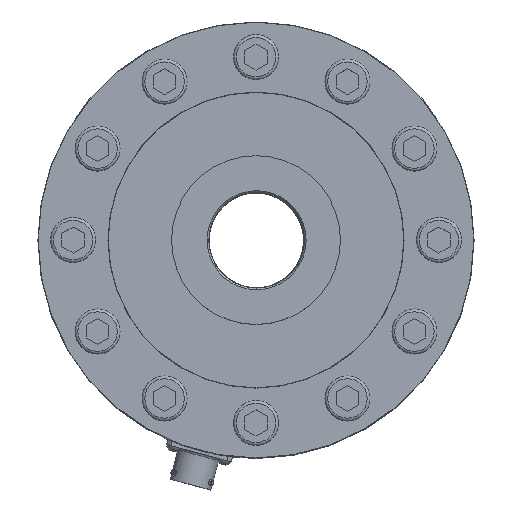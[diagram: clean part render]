
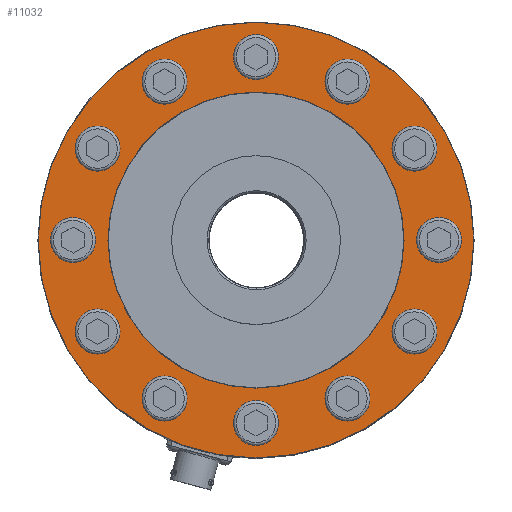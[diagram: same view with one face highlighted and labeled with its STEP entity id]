
A CAD part, top view. The second image highlights one B-rep face of the part: STEP entity #11032.
In plain terms, the highlighted planar face has unit normal (0, 0, 1).
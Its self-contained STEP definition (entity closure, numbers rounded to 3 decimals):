
#338=FACE_BOUND('',#1839,.T.);
#339=FACE_BOUND('',#1840,.T.);
#340=FACE_BOUND('',#1841,.T.);
#341=FACE_BOUND('',#1842,.T.);
#342=FACE_BOUND('',#1843,.T.);
#343=FACE_BOUND('',#1844,.T.);
#344=FACE_BOUND('',#1845,.T.);
#345=FACE_BOUND('',#1846,.T.);
#346=FACE_BOUND('',#1847,.T.);
#347=FACE_BOUND('',#1848,.T.);
#348=FACE_BOUND('',#1849,.T.);
#349=FACE_BOUND('',#1850,.T.);
#350=FACE_BOUND('',#1851,.T.);
#484=PLANE('',#11778);
#1197=FACE_OUTER_BOUND('',#1838,.T.);
#1838=EDGE_LOOP('',(#7764));
#1839=EDGE_LOOP('',(#7765));
#1840=EDGE_LOOP('',(#7766));
#1841=EDGE_LOOP('',(#7767));
#1842=EDGE_LOOP('',(#7768));
#1843=EDGE_LOOP('',(#7769));
#1844=EDGE_LOOP('',(#7770));
#1845=EDGE_LOOP('',(#7771));
#1846=EDGE_LOOP('',(#7772));
#1847=EDGE_LOOP('',(#7773));
#1848=EDGE_LOOP('',(#7774));
#1849=EDGE_LOOP('',(#7775));
#1850=EDGE_LOOP('',(#7776));
#1851=EDGE_LOOP('',(#7777));
#2984=CIRCLE('',#11777,52.6);
#2985=CIRCLE('',#11779,77.4);
#2986=CIRCLE('',#11780,5.5);
#2987=CIRCLE('',#11781,5.5);
#2988=CIRCLE('',#11782,5.5);
#2989=CIRCLE('',#11783,5.5);
#2990=CIRCLE('',#11784,5.5);
#2991=CIRCLE('',#11785,5.5);
#2992=CIRCLE('',#11786,5.5);
#2993=CIRCLE('',#11787,5.5);
#2994=CIRCLE('',#11788,5.5);
#2995=CIRCLE('',#11789,5.5);
#2996=CIRCLE('',#11790,5.5);
#2997=CIRCLE('',#11791,5.5);
#5032=VERTEX_POINT('',#18302);
#5033=VERTEX_POINT('',#18306);
#5034=VERTEX_POINT('',#18308);
#5035=VERTEX_POINT('',#18310);
#5036=VERTEX_POINT('',#18312);
#5037=VERTEX_POINT('',#18314);
#5038=VERTEX_POINT('',#18316);
#5039=VERTEX_POINT('',#18318);
#5040=VERTEX_POINT('',#18320);
#5041=VERTEX_POINT('',#18322);
#5042=VERTEX_POINT('',#18324);
#5043=VERTEX_POINT('',#18326);
#5044=VERTEX_POINT('',#18328);
#5045=VERTEX_POINT('',#18330);
#6131=EDGE_CURVE('',#5032,#5032,#2984,.T.);
#6132=EDGE_CURVE('',#5033,#5033,#2985,.T.);
#6133=EDGE_CURVE('',#5034,#5034,#2986,.T.);
#6134=EDGE_CURVE('',#5035,#5035,#2987,.T.);
#6135=EDGE_CURVE('',#5036,#5036,#2988,.T.);
#6136=EDGE_CURVE('',#5037,#5037,#2989,.T.);
#6137=EDGE_CURVE('',#5038,#5038,#2990,.T.);
#6138=EDGE_CURVE('',#5039,#5039,#2991,.T.);
#6139=EDGE_CURVE('',#5040,#5040,#2992,.T.);
#6140=EDGE_CURVE('',#5041,#5041,#2993,.T.);
#6141=EDGE_CURVE('',#5042,#5042,#2994,.T.);
#6142=EDGE_CURVE('',#5043,#5043,#2995,.T.);
#6143=EDGE_CURVE('',#5044,#5044,#2996,.T.);
#6144=EDGE_CURVE('',#5045,#5045,#2997,.T.);
#7764=ORIENTED_EDGE('',*,*,#6132,.F.);
#7765=ORIENTED_EDGE('',*,*,#6133,.T.);
#7766=ORIENTED_EDGE('',*,*,#6134,.T.);
#7767=ORIENTED_EDGE('',*,*,#6135,.T.);
#7768=ORIENTED_EDGE('',*,*,#6136,.T.);
#7769=ORIENTED_EDGE('',*,*,#6137,.T.);
#7770=ORIENTED_EDGE('',*,*,#6138,.T.);
#7771=ORIENTED_EDGE('',*,*,#6139,.T.);
#7772=ORIENTED_EDGE('',*,*,#6140,.T.);
#7773=ORIENTED_EDGE('',*,*,#6141,.T.);
#7774=ORIENTED_EDGE('',*,*,#6142,.T.);
#7775=ORIENTED_EDGE('',*,*,#6143,.T.);
#7776=ORIENTED_EDGE('',*,*,#6144,.T.);
#7777=ORIENTED_EDGE('',*,*,#6131,.F.);
#11032=ADVANCED_FACE('',(#1197,#338,#339,#340,#341,#342,#343,#344,#345,
#346,#347,#348,#349,#350),#484,.T.);
#11777=AXIS2_PLACEMENT_3D('',#18304,#12903,#12904);
#11778=AXIS2_PLACEMENT_3D('',#18305,#12905,#12906);
#11779=AXIS2_PLACEMENT_3D('',#18307,#12907,#12908);
#11780=AXIS2_PLACEMENT_3D('',#18309,#12909,#12910);
#11781=AXIS2_PLACEMENT_3D('',#18311,#12911,#12912);
#11782=AXIS2_PLACEMENT_3D('',#18313,#12913,#12914);
#11783=AXIS2_PLACEMENT_3D('',#18315,#12915,#12916);
#11784=AXIS2_PLACEMENT_3D('',#18317,#12917,#12918);
#11785=AXIS2_PLACEMENT_3D('',#18319,#12919,#12920);
#11786=AXIS2_PLACEMENT_3D('',#18321,#12921,#12922);
#11787=AXIS2_PLACEMENT_3D('',#18323,#12923,#12924);
#11788=AXIS2_PLACEMENT_3D('',#18325,#12925,#12926);
#11789=AXIS2_PLACEMENT_3D('',#18327,#12927,#12928);
#11790=AXIS2_PLACEMENT_3D('',#18329,#12929,#12930);
#11791=AXIS2_PLACEMENT_3D('',#18331,#12931,#12932);
#12903=DIRECTION('center_axis',(0.,0.,1.));
#12904=DIRECTION('ref_axis',(1.,0.,0.));
#12905=DIRECTION('center_axis',(0.,0.,1.));
#12906=DIRECTION('ref_axis',(-1.,0.,0.));
#12907=DIRECTION('center_axis',(0.,0.,-1.));
#12908=DIRECTION('ref_axis',(1.,0.,0.));
#12909=DIRECTION('center_axis',(0.,0.,-1.));
#12910=DIRECTION('ref_axis',(1.,0.,0.));
#12911=DIRECTION('center_axis',(0.,0.,-1.));
#12912=DIRECTION('ref_axis',(1.,0.,0.));
#12913=DIRECTION('center_axis',(0.,0.,-1.));
#12914=DIRECTION('ref_axis',(1.,0.,0.));
#12915=DIRECTION('center_axis',(0.,0.,-1.));
#12916=DIRECTION('ref_axis',(1.,0.,0.));
#12917=DIRECTION('center_axis',(0.,0.,-1.));
#12918=DIRECTION('ref_axis',(1.,0.,0.));
#12919=DIRECTION('center_axis',(0.,0.,-1.));
#12920=DIRECTION('ref_axis',(1.,0.,0.));
#12921=DIRECTION('center_axis',(0.,0.,-1.));
#12922=DIRECTION('ref_axis',(1.,0.,0.));
#12923=DIRECTION('center_axis',(0.,0.,-1.));
#12924=DIRECTION('ref_axis',(1.,0.,0.));
#12925=DIRECTION('center_axis',(0.,0.,-1.));
#12926=DIRECTION('ref_axis',(1.,0.,0.));
#12927=DIRECTION('center_axis',(0.,0.,-1.));
#12928=DIRECTION('ref_axis',(1.,0.,0.));
#12929=DIRECTION('center_axis',(0.,0.,-1.));
#12930=DIRECTION('ref_axis',(1.,0.,0.));
#12931=DIRECTION('center_axis',(0.,0.,-1.));
#12932=DIRECTION('ref_axis',(1.,0.,0.));
#18302=CARTESIAN_POINT('',(-52.6,0.,44.));
#18304=CARTESIAN_POINT('Origin',(0.,0.,
44.));
#18305=CARTESIAN_POINT('Origin',(-52.5,0.,44.));
#18306=CARTESIAN_POINT('',(-77.4,0.,44.));
#18307=CARTESIAN_POINT('Origin',(0.,0.,
44.));
#18308=CARTESIAN_POINT('',(50.792,32.5,44.));
#18309=CARTESIAN_POINT('Origin',(56.292,32.5,44.));
#18310=CARTESIAN_POINT('',(-61.792,32.5,44.));
#18311=CARTESIAN_POINT('Origin',(-56.292,32.5,44.));
#18312=CARTESIAN_POINT('',(-5.5,-65.,44.));
#18313=CARTESIAN_POINT('Origin',(0.,-65.,44.));
#18314=CARTESIAN_POINT('',(-61.792,-32.5,44.));
#18315=CARTESIAN_POINT('Origin',(-56.292,-32.5,44.));
#18316=CARTESIAN_POINT('',(-38.,56.292,44.));
#18317=CARTESIAN_POINT('Origin',(-32.5,56.292,44.));
#18318=CARTESIAN_POINT('',(59.5,0.,44.));
#18319=CARTESIAN_POINT('Origin',(65.,0.,44.));
#18320=CARTESIAN_POINT('',(27.,56.292,44.));
#18321=CARTESIAN_POINT('Origin',(32.5,56.292,44.));
#18322=CARTESIAN_POINT('',(-70.5,0.,44.));
#18323=CARTESIAN_POINT('Origin',(-65.,0.,44.));
#18324=CARTESIAN_POINT('',(27.,-56.292,44.));
#18325=CARTESIAN_POINT('Origin',(32.5,-56.292,44.));
#18326=CARTESIAN_POINT('',(-38.,-56.292,44.));
#18327=CARTESIAN_POINT('Origin',(-32.5,-56.292,44.));
#18328=CARTESIAN_POINT('',(-5.5,65.,44.));
#18329=CARTESIAN_POINT('Origin',(0.,65.,44.));
#18330=CARTESIAN_POINT('',(50.792,-32.5,44.));
#18331=CARTESIAN_POINT('Origin',(56.292,-32.5,44.));
